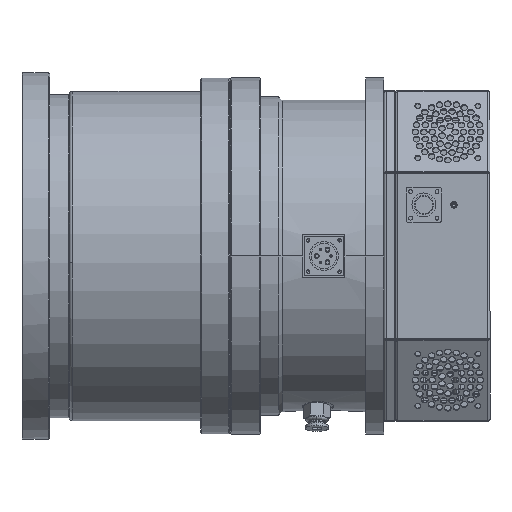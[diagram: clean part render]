
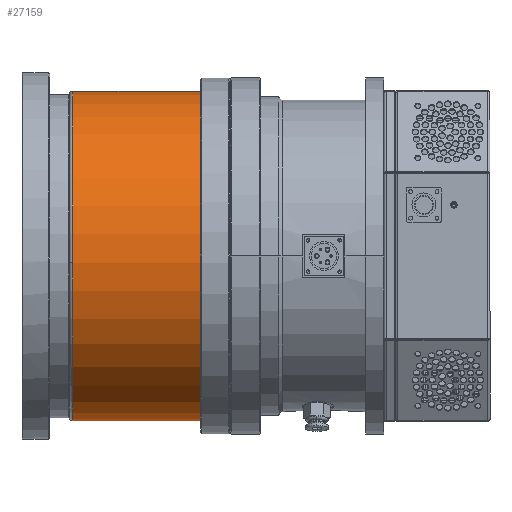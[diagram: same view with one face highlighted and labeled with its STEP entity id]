
A CAD part, left-side view. The second image highlights one B-rep face of the part: STEP entity #27159.
In plain terms, the highlighted cylindrical face has radius 137 mm (diameter 274 mm), a partial arc.
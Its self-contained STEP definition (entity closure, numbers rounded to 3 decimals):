
#9066 = ORIENTED_EDGE ( 'NONE', *, *, #66545, .F. ) ;
#19036 = VERTEX_POINT ( 'NONE', #100881 ) ;
#20830 = EDGE_CURVE ( 'NONE', #33680, #19036, #109762, .T. ) ;
#21989 = CARTESIAN_POINT ( 'NONE',  ( 0., 112.381, 137. ) ) ;
#23324 = CARTESIAN_POINT ( 'NONE',  ( 0., 112.381, -137. ) ) ;
#24255 = VECTOR ( 'NONE', #67226, 1000. ) ;
#27159 = ADVANCED_FACE ( 'NONE', ( #34844 ), #74940, .T. ) ;
#33680 = VERTEX_POINT ( 'NONE', #67694 ) ;
#34844 = FACE_OUTER_BOUND ( 'NONE', #89161, .T. ) ;
#34979 = CARTESIAN_POINT ( 'NONE',  ( 0., 112.381, 0. ) ) ;
#38082 = AXIS2_PLACEMENT_3D ( 'NONE', #34979, #98914, #44162 ) ;
#41937 = CARTESIAN_POINT ( 'NONE',  ( 0., 112.381, 0. ) ) ;
#44162 = DIRECTION ( 'NONE',  ( 0., 0., 1. ) ) ;
#45956 = VERTEX_POINT ( 'NONE', #21989 ) ;
#48917 = CARTESIAN_POINT ( 'NONE',  ( 0., 1., 0. ) ) ;
#51175 = DIRECTION ( 'NONE',  ( 0., 0., 1. ) ) ;
#51524 = DIRECTION ( 'NONE',  ( 0., 1., 0. ) ) ;
#55351 = DIRECTION ( 'NONE',  ( 0., 1., 0. ) ) ;
#58059 = CARTESIAN_POINT ( 'NONE',  ( 0., 198.318, -137. ) ) ;
#58132 = DIRECTION ( 'NONE',  ( 0., 0., 1. ) ) ;
#60528 = ORIENTED_EDGE ( 'NONE', *, *, #77076, .T. ) ;
#66545 = EDGE_CURVE ( 'NONE', #33680, #45956, #107506, .T. ) ;
#67226 = DIRECTION ( 'NONE',  ( 0., 1., 0. ) ) ;
#67694 = CARTESIAN_POINT ( 'NONE',  ( 0., 1., 137. ) ) ;
#73313 = CARTESIAN_POINT ( 'NONE',  ( 0., 198.318, 0. ) ) ;
#73338 = CIRCLE ( 'NONE', #89933, 137. ) ;
#74940 = CYLINDRICAL_SURFACE ( 'NONE', #75283, 137. ) ;
#75283 = AXIS2_PLACEMENT_3D ( 'NONE', #73313, #55351, #109992 ) ;
#77076 = EDGE_CURVE ( 'NONE', #84554, #95224, #73338, .T. ) ;
#81625 = EDGE_CURVE ( 'NONE', #19036, #84554, #97206, .T. ) ;
#83264 = VECTOR ( 'NONE', #51524, 1000. ) ;
#84554 = VERTEX_POINT ( 'NONE', #23324 ) ;
#85491 = CARTESIAN_POINT ( 'NONE',  ( 137., 112.381, 0. ) ) ;
#89161 = EDGE_LOOP ( 'NONE', ( #90896, #110194, #60528, #91126, #9066 ) ) ;
#89933 = AXIS2_PLACEMENT_3D ( 'NONE', #41937, #105846, #51175 ) ;
#90896 = ORIENTED_EDGE ( 'NONE', *, *, #20830, .T. ) ;
#91126 = ORIENTED_EDGE ( 'NONE', *, *, #105676, .T. ) ;
#95224 = VERTEX_POINT ( 'NONE', #85491 ) ;
#97206 = LINE ( 'NONE', #58059, #24255 ) ;
#98623 = AXIS2_PLACEMENT_3D ( 'NONE', #48917, #112803, #58132 ) ;
#98914 = DIRECTION ( 'NONE',  ( 0., -1., 0. ) ) ;
#100881 = CARTESIAN_POINT ( 'NONE',  ( 0., 1., -137. ) ) ;
#105457 = CARTESIAN_POINT ( 'NONE',  ( 0., 198.318, 137. ) ) ;
#105676 = EDGE_CURVE ( 'NONE', #95224, #45956, #109558, .T. ) ;
#105846 = DIRECTION ( 'NONE',  ( 0., -1., 0. ) ) ;
#107506 = LINE ( 'NONE', #105457, #83264 ) ;
#109558 = CIRCLE ( 'NONE', #38082, 137. ) ;
#109762 = CIRCLE ( 'NONE', #98623, 137. ) ;
#109992 = DIRECTION ( 'NONE',  ( 0., 0., 1. ) ) ;
#110194 = ORIENTED_EDGE ( 'NONE', *, *, #81625, .T. ) ;
#112803 = DIRECTION ( 'NONE',  ( 0., 1., 0. ) ) ;
